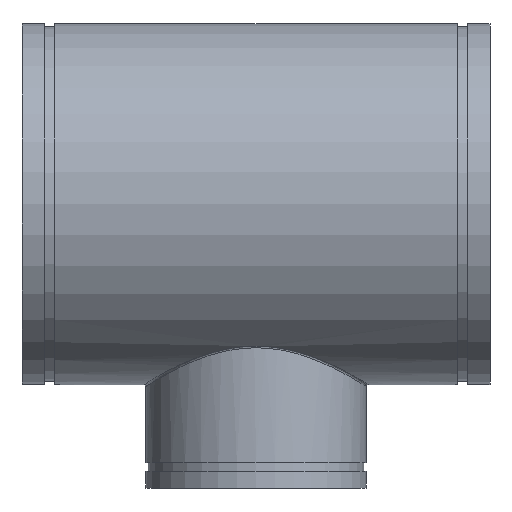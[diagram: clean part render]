
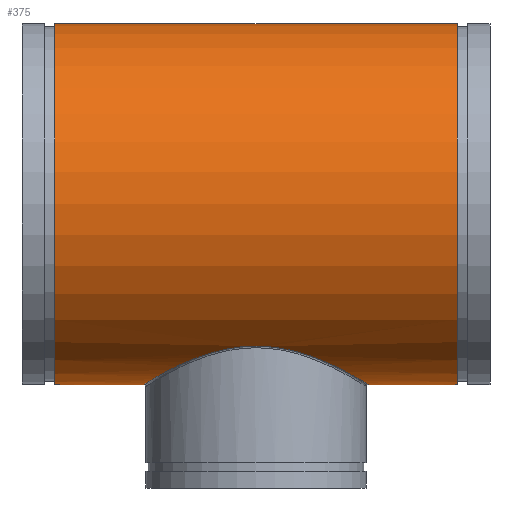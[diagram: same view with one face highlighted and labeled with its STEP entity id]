
A CAD part, top view. The second image highlights one B-rep face of the part: STEP entity #375.
In plain terms, the highlighted cylindrical face has radius 274.32 mm (diameter 548.64 mm), a full revolution.
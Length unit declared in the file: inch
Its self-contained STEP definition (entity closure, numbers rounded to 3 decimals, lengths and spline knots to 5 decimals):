
#54=FACE_BOUND('',#119,.T.);
#65=LINE('',#889,#76);
#76=VECTOR('',#483,10.8);
#87=CYLINDRICAL_SURFACE('',#415,10.8);
#98=FACE_OUTER_BOUND('',#118,.T.);
#118=EDGE_LOOP('',(#266,#267,#268,#269));
#119=EDGE_LOOP('',(#270));
#150=B_SPLINE_CURVE_WITH_KNOTS('',3,(#847,#848,#849,#850,#851,#852,#853,
#854,#855,#856,#857,#858,#859,#860,#861,#862,#863,#864,#865,#866,#867,#868,
#869,#870,#871,#872,#873,#874,#875,#876,#877,#878,#879,#880,#881,#882,#883,
#884),.UNSPECIFIED.,.T.,.F.,(4,1,1,1,1,1,1,1,1,1,1,1,1,1,1,1,1,1,1,1,1,
1,1,1,1,1,1,1,1,1,1,1,1,1,1,4),(-104.38539,-100.65734,-96.92929,
-93.20124,-89.47319,-84.50246,-82.01709,-79.53172,
-78.91038,-78.28904,-77.04636,-75.80367,
-74.56099,-69.59026,-64.61953,-59.64879,
-57.16343,-54.67806,-52.19269,-49.70733,
-47.22196,-44.73659,-39.76586,-34.79513,
-33.55245,-29.8244,-27.33903,-26.09635,
-25.47501,-24.85366,-19.88293,-14.9122,
-11.18415,-7.4561,-3.72805,0.),.UNSPECIFIED.);
#154=CIRCLE('',#416,10.8);
#155=CIRCLE('',#417,10.8);
#182=VERTEX_POINT('',#801);
#185=VERTEX_POINT('',#886);
#186=VERTEX_POINT('',#888);
#219=EDGE_CURVE('',#182,#182,#150,.T.);
#220=EDGE_CURVE('',#185,#185,#154,.T.);
#221=EDGE_CURVE('',#185,#186,#65,.T.);
#222=EDGE_CURVE('',#186,#186,#155,.T.);
#266=ORIENTED_EDGE('',*,*,#220,.T.);
#267=ORIENTED_EDGE('',*,*,#221,.T.);
#268=ORIENTED_EDGE('',*,*,#222,.T.);
#269=ORIENTED_EDGE('',*,*,#221,.F.);
#270=ORIENTED_EDGE('',*,*,#219,.F.);
#375=ADVANCED_FACE('',(#98,#54),#87,.T.);
#415=AXIS2_PLACEMENT_3D('',#885,#479,#480);
#416=AXIS2_PLACEMENT_3D('',#887,#481,#482);
#417=AXIS2_PLACEMENT_3D('',#890,#484,#485);
#479=DIRECTION('center_axis',(-1.,0.,0.));
#480=DIRECTION('ref_axis',(0.,-1.,0.));
#481=DIRECTION('center_axis',(1.,0.,0.));
#482=DIRECTION('ref_axis',(0.,-1.,0.));
#483=DIRECTION('',(1.,0.,0.));
#484=DIRECTION('center_axis',(-1.,0.,0.));
#485=DIRECTION('ref_axis',(0.,-1.,0.));
#801=CARTESIAN_POINT('',(0.,-8.51137,-6.64805));
#847=CARTESIAN_POINT('Ctrl Pts',(0.,-8.51137,
-6.64805));
#848=CARTESIAN_POINT('Ctrl Pts',(0.51762,-8.51137,-6.64805));
#849=CARTESIAN_POINT('Ctrl Pts',(1.55199,-8.60683,-6.52814));
#850=CARTESIAN_POINT('Ctrl Pts',(2.98139,-8.97837,-6.01969));
#851=CARTESIAN_POINT('Ctrl Pts',(4.23173,-9.46567,-5.23432));
#852=CARTESIAN_POINT('Ctrl Pts',(5.3931,-10.02927,-4.09275));
#853=CARTESIAN_POINT('Ctrl Pts',(6.16055,-10.46304,-2.80961));
#854=CARTESIAN_POINT('Ctrl Pts',(6.57273,-10.7074,-1.52439));
#855=CARTESIAN_POINT('Ctrl Pts',(6.69182,-10.77987,-0.76666));
#856=CARTESIAN_POINT('Ctrl Pts',(6.72168,-10.79797,-0.25589));
#857=CARTESIAN_POINT('Ctrl Pts',(6.72831,-10.80201,0.08518));
#858=CARTESIAN_POINT('Ctrl Pts',(6.71176,-10.79196,0.51172));
#859=CARTESIAN_POINT('Ctrl Pts',(6.65207,-10.75566,1.019));
#860=CARTESIAN_POINT('Ctrl Pts',(6.45605,-10.63786,2.01862));
#861=CARTESIAN_POINT('Ctrl Pts',(5.87874,-10.29555,3.42466));
#862=CARTESIAN_POINT('Ctrl Pts',(4.63203,-9.63839,4.94761));
#863=CARTESIAN_POINT('Ctrl Pts',(3.27569,-9.076,5.87068));
#864=CARTESIAN_POINT('Ctrl Pts',(2.03205,-8.72857,6.36373));
#865=CARTESIAN_POINT('Ctrl Pts',(1.03522,-8.55311,6.59511));
#866=CARTESIAN_POINT('Ctrl Pts',(0.,-8.49042,
6.67458));
#867=CARTESIAN_POINT('Ctrl Pts',(-1.03517,-8.55311,6.59508));
#868=CARTESIAN_POINT('Ctrl Pts',(-2.03204,-8.72856,6.36382));
#869=CARTESIAN_POINT('Ctrl Pts',(-3.27572,-9.07596,5.87047));
#870=CARTESIAN_POINT('Ctrl Pts',(-4.63201,-9.63846,4.94805));
#871=CARTESIAN_POINT('Ctrl Pts',(-5.56689,-10.13106,3.8051));
#872=CARTESIAN_POINT('Ctrl Pts',(-6.19978,-10.486,2.6439));
#873=CARTESIAN_POINT('Ctrl Pts',(-6.54615,-10.69151,1.69339));
#874=CARTESIAN_POINT('Ctrl Pts',(-6.70508,-10.78783,0.68223));
#875=CARTESIAN_POINT('Ctrl Pts',(-6.72835,-10.80206,0.08533));
#876=CARTESIAN_POINT('Ctrl Pts',(-6.72161,-10.79791,-0.25577));
#877=CARTESIAN_POINT('Ctrl Pts',(-6.67254,-10.76832,-1.10723));
#878=CARTESIAN_POINT('Ctrl Pts',(-6.33162,-10.55988,-2.52467));
#879=CARTESIAN_POINT('Ctrl Pts',(-5.39289,-10.02907,-4.09263));
#880=CARTESIAN_POINT('Ctrl Pts',(-4.23189,-9.46579,-5.23432));
#881=CARTESIAN_POINT('Ctrl Pts',(-2.98127,-8.97829,-6.0197));
#882=CARTESIAN_POINT('Ctrl Pts',(-1.55204,-8.60687,-6.52815));
#883=CARTESIAN_POINT('Ctrl Pts',(-0.51762,-8.51137,-6.64805));
#884=CARTESIAN_POINT('Ctrl Pts',(0.,-8.51137,
-6.64805));
#885=CARTESIAN_POINT('Origin',(14.,0.,0.));
#886=CARTESIAN_POINT('',(-12.035,10.8,0.));
#887=CARTESIAN_POINT('Origin',(-12.035,0.,0.));
#888=CARTESIAN_POINT('',(12.035,10.8,0.));
#889=CARTESIAN_POINT('',(14.,10.8,0.));
#890=CARTESIAN_POINT('Origin',(12.035,0.,0.));
